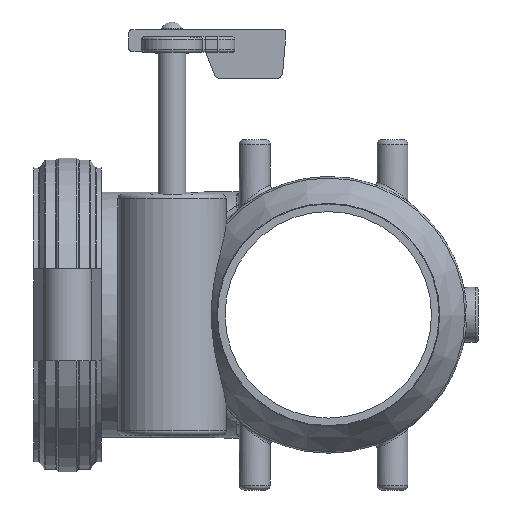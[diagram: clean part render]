
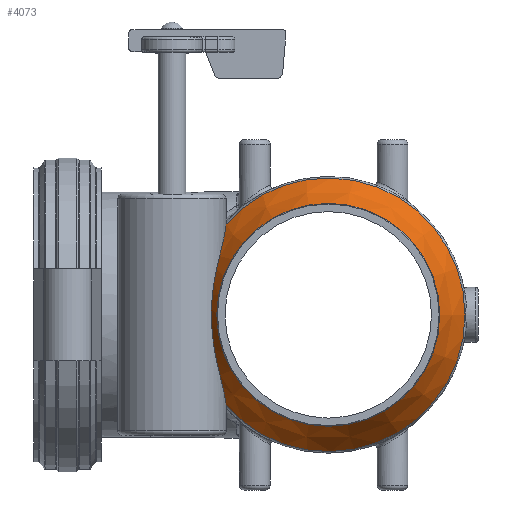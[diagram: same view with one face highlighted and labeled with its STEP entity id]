
A CAD part, left-side view. The second image highlights one B-rep face of the part: STEP entity #4073.
In plain terms, the highlighted conical face has half-angle 30 degrees and reference radius 128.693 mm.
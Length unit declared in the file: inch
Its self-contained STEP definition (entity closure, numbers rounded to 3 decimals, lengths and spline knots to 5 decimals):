
#80=CONICAL_SURFACE('',#4514,5.06666,0.524);
#186=B_SPLINE_CURVE_WITH_KNOTS('',3,(#8622,#8623,#8624,#8625,#8626,#8627,
#8628,#8629,#8630,#8631,#8632,#8633,#8634,#8635,#8636,#8637,#8638,#8639,
#8640,#8641,#8642,#8643,#8644,#8645,#8646,#8647,#8648,#8649,#8650,#8651),
 .UNSPECIFIED.,.F.,.F.,(4,2,2,2,2,2,2,2,2,2,2,2,2,2,4),(17.98341,
18.478,20.89581,23.31361,24.52251,25.73142,
26.94032,28.14922,29.35812,30.56702,31.77593,
32.98483,35.40263,37.82043,38.31503),
 .UNSPECIFIED.);
#557=CIRCLE('',#4515,4.55046);
#558=CIRCLE('',#4516,4.55046);
#559=CIRCLE('',#4517,5.58286);
#560=CIRCLE('',#4518,5.58286);
#561=CIRCLE('',#4519,4.55046);
#806=FACE_OUTER_BOUND('',#1041,.T.);
#1041=EDGE_LOOP('',(#3463,#3464,#3465,#3466,#3467,#3468,#3469,#3470));
#1256=LINE('',#8816,#1460);
#1460=VECTOR('',#5601,5.06666);
#1772=VERTEX_POINT('',#8612);
#1773=VERTEX_POINT('',#8621);
#1800=VERTEX_POINT('',#8810);
#1801=VERTEX_POINT('',#8811);
#1802=VERTEX_POINT('',#8813);
#1803=VERTEX_POINT('',#8815);
#2311=EDGE_CURVE('',#1773,#1772,#186,.T.);
#2368=EDGE_CURVE('',#1800,#1801,#557,.T.);
#2369=EDGE_CURVE('',#1802,#1800,#558,.T.);
#2370=EDGE_CURVE('',#1802,#1803,#1256,.T.);
#2371=EDGE_CURVE('',#1803,#1773,#559,.T.);
#2372=EDGE_CURVE('',#1772,#1803,#560,.T.);
#2373=EDGE_CURVE('',#1801,#1802,#561,.T.);
#3463=ORIENTED_EDGE('',*,*,#2368,.F.);
#3464=ORIENTED_EDGE('',*,*,#2369,.F.);
#3465=ORIENTED_EDGE('',*,*,#2370,.T.);
#3466=ORIENTED_EDGE('',*,*,#2371,.T.);
#3467=ORIENTED_EDGE('',*,*,#2311,.T.);
#3468=ORIENTED_EDGE('',*,*,#2372,.T.);
#3469=ORIENTED_EDGE('',*,*,#2370,.F.);
#3470=ORIENTED_EDGE('',*,*,#2373,.F.);
#4073=ADVANCED_FACE('',(#806),#80,.T.);
#4514=AXIS2_PLACEMENT_3D('',#8809,#5595,#5596);
#4515=AXIS2_PLACEMENT_3D('',#8812,#5597,#5598);
#4516=AXIS2_PLACEMENT_3D('',#8814,#5599,#5600);
#4517=AXIS2_PLACEMENT_3D('',#8817,#5602,#5603);
#4518=AXIS2_PLACEMENT_3D('',#8818,#5604,#5605);
#4519=AXIS2_PLACEMENT_3D('',#8819,#5606,#5607);
#5595=DIRECTION('center_axis',(1.,0.,0.));
#5596=DIRECTION('ref_axis',(0.,1.,0.));
#5597=DIRECTION('center_axis',(-1.,0.,0.));
#5598=DIRECTION('ref_axis',(0.,0.,1.));
#5599=DIRECTION('center_axis',(-1.,0.,0.));
#5600=DIRECTION('ref_axis',(0.,0.,1.));
#5601=DIRECTION('',(0.866,-0.5,0.));
#5602=DIRECTION('center_axis',(-1.,0.,0.));
#5603=DIRECTION('ref_axis',(0.,0.,1.));
#5604=DIRECTION('center_axis',(-1.,0.,0.));
#5605=DIRECTION('ref_axis',(0.,0.,1.));
#5606=DIRECTION('center_axis',(-1.,0.,0.));
#5607=DIRECTION('ref_axis',(0.,0.,1.));
#8612=CARTESIAN_POINT('',(-5.19628,4.17306,-3.70863));
#8621=CARTESIAN_POINT('',(-5.19628,4.17306,3.70863));
#8622=CARTESIAN_POINT('Ctrl Pts',(-5.19628,4.17306,3.70863));
#8623=CARTESIAN_POINT('Ctrl Pts',(-5.24593,4.17568,3.66254));
#8624=CARTESIAN_POINT('Ctrl Pts',(-5.2935,4.17987,3.61594));
#8625=CARTESIAN_POINT('Ctrl Pts',(-5.55912,4.21117,3.34292));
#8626=CARTESIAN_POINT('Ctrl Pts',(-5.75287,4.26758,3.08913));
#8627=CARTESIAN_POINT('Ctrl Pts',(-6.07883,4.40075,2.5384));
#8628=CARTESIAN_POINT('Ctrl Pts',(-6.21076,4.47726,2.24124));
#8629=CARTESIAN_POINT('Ctrl Pts',(-6.36296,4.57949,1.77588));
#8630=CARTESIAN_POINT('Ctrl Pts',(-6.40622,4.61157,1.61741));
#8631=CARTESIAN_POINT('Ctrl Pts',(-6.47881,4.66841,1.29649));
#8632=CARTESIAN_POINT('Ctrl Pts',(-6.50815,4.69316,1.13404));
#8633=CARTESIAN_POINT('Ctrl Pts',(-6.55413,4.7332,0.80817));
#8634=CARTESIAN_POINT('Ctrl Pts',(-6.57079,4.74848,0.64473));
#8635=CARTESIAN_POINT('Ctrl Pts',(-6.59264,4.76872,0.31997));
#8636=CARTESIAN_POINT('Ctrl Pts',(-6.59784,4.77368,0.15865));
#8637=CARTESIAN_POINT('Ctrl Pts',(-6.59784,4.77368,-0.15865));
#8638=CARTESIAN_POINT('Ctrl Pts',(-6.59264,4.76872,-0.31997));
#8639=CARTESIAN_POINT('Ctrl Pts',(-6.57079,4.74848,-0.64473));
#8640=CARTESIAN_POINT('Ctrl Pts',(-6.55413,4.7332,-0.80817));
#8641=CARTESIAN_POINT('Ctrl Pts',(-6.50815,4.69316,-1.13404));
#8642=CARTESIAN_POINT('Ctrl Pts',(-6.47881,4.66841,-1.29649));
#8643=CARTESIAN_POINT('Ctrl Pts',(-6.40622,4.61157,-1.61741));
#8644=CARTESIAN_POINT('Ctrl Pts',(-6.36296,4.57949,-1.77588));
#8645=CARTESIAN_POINT('Ctrl Pts',(-6.21076,4.47726,-2.24124));
#8646=CARTESIAN_POINT('Ctrl Pts',(-6.07883,4.40075,-2.5384));
#8647=CARTESIAN_POINT('Ctrl Pts',(-5.75287,4.26758,-3.08913));
#8648=CARTESIAN_POINT('Ctrl Pts',(-5.55912,4.21117,-3.34292));
#8649=CARTESIAN_POINT('Ctrl Pts',(-5.2935,4.17987,-3.61594));
#8650=CARTESIAN_POINT('Ctrl Pts',(-5.24593,4.17568,-3.66254));
#8651=CARTESIAN_POINT('Ctrl Pts',(-5.19628,4.17306,-3.70863));
#8809=CARTESIAN_POINT('Origin',(-6.09038,0.,0.));
#8810=CARTESIAN_POINT('',(-6.98447,4.55046,0.));
#8811=CARTESIAN_POINT('',(-6.98447,0.,-4.55046));
#8812=CARTESIAN_POINT('Origin',(-6.98447,0.,0.));
#8813=CARTESIAN_POINT('',(-6.98447,-4.55046,0.));
#8814=CARTESIAN_POINT('Origin',(-6.98447,0.,0.));
#8815=CARTESIAN_POINT('',(-5.19628,-5.58286,0.));
#8816=CARTESIAN_POINT('',(-6.09038,-5.06666,0.));
#8817=CARTESIAN_POINT('Origin',(-5.19628,0.,0.));
#8818=CARTESIAN_POINT('Origin',(-5.19628,0.,0.));
#8819=CARTESIAN_POINT('Origin',(-6.98447,0.,0.));
